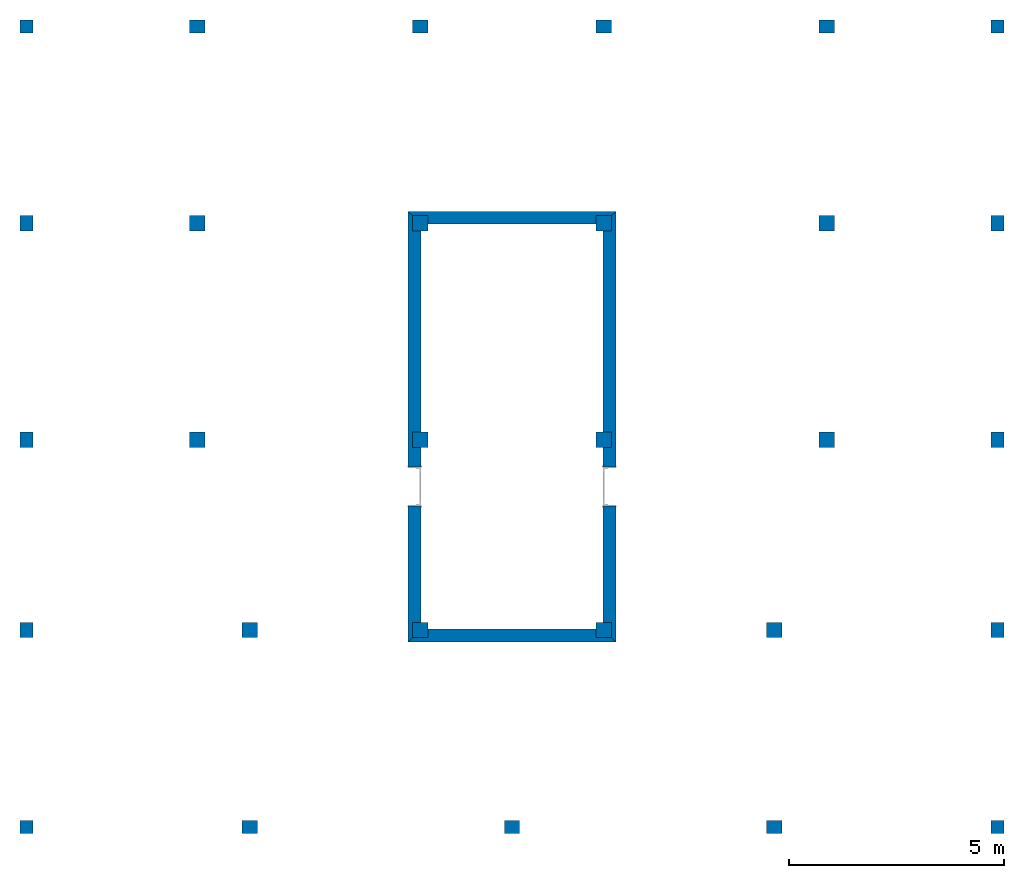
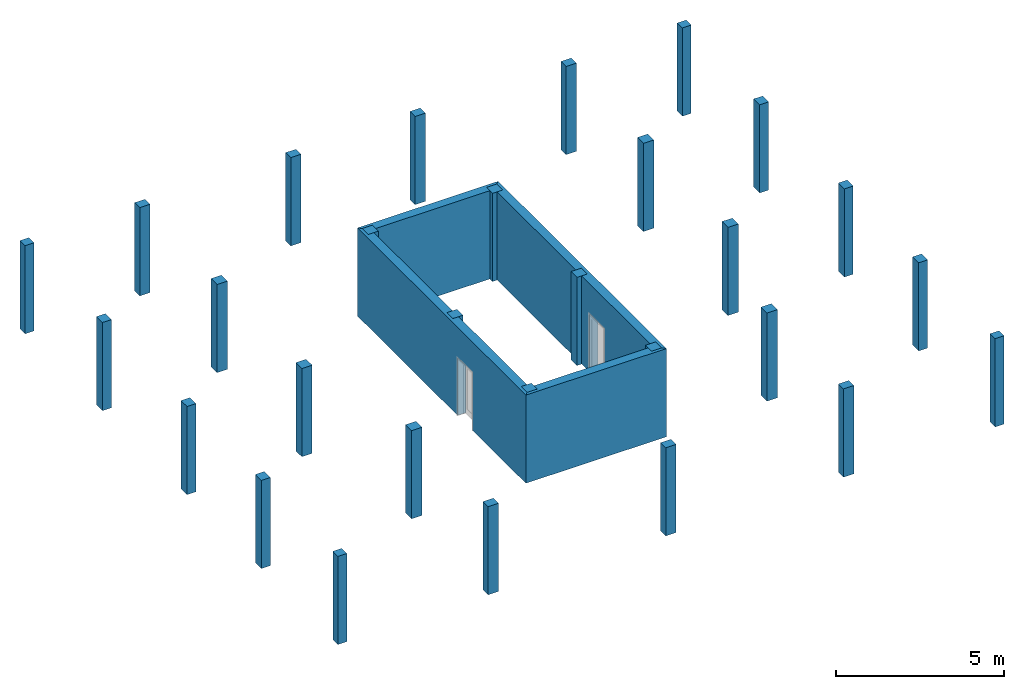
# One storey, part 1 of 2: 29 columns, 4 walls, 2 openings.
"""IFC2X3 building model written with IfcOpenShell, lengths in millimetres."""

from ifc_helpers import new_model, entity, si_unit, converted_unit, direction, frame, origin_with_axes, origin_2d_with_axis, place, context, subcontext, project, spatial, polyline, rectangle, outline, extrude, material, layer, layer_set, layer_usage, type_object, element, save


model = new_model("IFC2X3")

# Units and contexts
model_context = context("Model", 3, precision=1e-05, world=origin_with_axes(), true_north=direction((0.0, 1.0)))
body_context = subcontext(model_context, "Body", "Model", "MODEL_VIEW")
ifc_project = project(units=[si_unit("LENGTHUNIT", "METRE", prefix="MILLI"), si_unit("AREAUNIT", "SQUARE_METRE"), si_unit("VOLUMEUNIT", "CUBIC_METRE"), converted_unit("PLANEANGLEUNIT", "DEGREE", entity("IfcPlaneAngleMeasure", 0.017453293), si_unit("PLANEANGLEUNIT", "RADIAN"), dimensions=[0, 0, 0, 0, 0, 0, 0]), si_unit("SOLIDANGLEUNIT", "STERADIAN"), si_unit("MASSUNIT", "GRAM"), si_unit("TIMEUNIT", "SECOND"), si_unit("THERMODYNAMICTEMPERATUREUNIT", "DEGREE_CELSIUS"), si_unit("LUMINOUSINTENSITYUNIT", "LUMEN")], contexts=[model_context])

# Site, building, storey
site_placement = place(None, origin_with_axes())
site = spatial("IfcSite", under=ifc_project, at=site_placement, Name="Sitio", CompositionType="ELEMENT")
building_placement = place(site_placement, origin_with_axes())
building = spatial("IfcBuilding", under=site, at=building_placement, Name="Ejemplo_StruBIM", CompositionType="ELEMENT")
storey_placement = place(building_placement, origin_with_axes())
storey = spatial("IfcBuildingStorey", under=building, at=storey_placement, Name="Low level", CompositionType="ELEMENT", Elevation=0.0)

# Columns
ifc_material_1 = material(Name="Hormigón armado")
column_type_1 = type_object("IfcColumnType", Name="12\"X12\"", PredefinedType="NOTDEFINED")
for number, where, z_axis, x_axis, name in (
    (1, (0.0, 0.0, 0.0), (0.0, 0.0, 1.0), (1.0, 0.0, 0.0), "P1"),
    (2, (0.0, 18592.8, 0.0), (0.0, 0.0, 1.0), (1.0, 0.0, 0.0), "P24"),
    (3, (22555.2, 0.0, 0.0), (0.0, 0.0, 1.0), (1.0, 0.0, 0.0), "P5"),
    (4, (22555.2, 18592.8, 0.0), (0.0, 0.0, 1.0), (1.0, 0.0, 0.0), "P29"),
):
    element("IfcColumn", number, at=place(storey_placement, frame(where, z_axis=z_axis, x_axis=x_axis)), inside=storey, type_object=column_type_1, material=ifc_material_1, Name=name, ObjectType="12\"X12\"", context=body_context, shape_type="SweptSolid", body=[
        extrude(rectangle(XDim=304.8, YDim=304.8, at=origin_2d_with_axis()), origin_with_axes(), (0.0, 0.0, 1.0), 3200.4),
    ])
column_type_2 = type_object("IfcColumnType", Name="12\"X14\"", PredefinedType="NOTDEFINED")
for number, where, z_axis, x_axis, name in (
    (5, (0.0, 4572.0, 0.0), (0.0, 0.0, 1.0), (1.0, 0.0, 0.0), "P6"),
    (6, (0.0, 8991.6, 0.0), (0.0, 0.0, 1.0), (1.0, 0.0, 0.0), "P12"),
    (7, (0.0, 14020.8, 0.0), (0.0, 0.0, 1.0), (1.0, 0.0, 0.0), "P18"),
    (8, (22555.2, 4572.0, 0.0), (0.0, 0.0, 1.0), (1.0, 0.0, 0.0), "P11"),
    (9, (22555.2, 8991.6, 0.0), (0.0, 0.0, 1.0), (1.0, 0.0, 0.0), "P17"),
    (10, (22555.2, 14020.8, 0.0), (0.0, 0.0, 1.0), (1.0, 0.0, 0.0), "P23"),
):
    element("IfcColumn", number, at=place(storey_placement, frame(where, z_axis=z_axis, x_axis=x_axis)), inside=storey, type_object=column_type_2, material=ifc_material_1, Name=name, ObjectType="12\"X14\"", context=body_context, shape_type="SweptSolid", body=[
        extrude(rectangle(XDim=304.8, YDim=355.6, at=origin_2d_with_axis()), origin_with_axes(), (0.0, 0.0, 1.0), 3200.4),
    ])
column_type_3 = type_object("IfcColumnType", Name="14\"X12\"", PredefinedType="NOTDEFINED")
for number, where, z_axis, x_axis, name in (
    (11, (5181.6, 0.0, 0.0), (0.0, 0.0, 1.0), (1.0, 0.0, 0.0), "P2"),
    (12, (11277.6, 0.0, 0.0), (0.0, 0.0, 1.0), (1.0, 0.0, 0.0), "P3"),
    (13, (9144.0, 18592.8, 0.0), (0.0, 0.0, 1.0), (1.0, 0.0, 0.0), "P26"),
    (14, (3962.4, 18592.8, 0.0), (0.0, 0.0, 1.0), (1.0, 0.0, 0.0), "P25"),
    (15, (17373.6, 0.0, 0.0), (0.0, 0.0, 1.0), (1.0, 0.0, 0.0), "P4"),
    (16, (13411.2, 18592.8, 0.0), (0.0, 0.0, 1.0), (1.0, 0.0, 0.0), "P27"),
    (17, (18592.8, 18592.8, 0.0), (0.0, 0.0, 1.0), (1.0, 0.0, 0.0), "P28"),
):
    element("IfcColumn", number, at=place(storey_placement, frame(where, z_axis=z_axis, x_axis=x_axis)), inside=storey, type_object=column_type_3, material=ifc_material_1, Name=name, ObjectType="14\"X12\"", context=body_context, shape_type="SweptSolid", body=[
        extrude(rectangle(XDim=355.6, YDim=304.8, at=origin_2d_with_axis()), origin_with_axes(), (0.0, 0.0, 1.0), 3200.4),
    ])
column_type_4 = type_object("IfcColumnType", Name="14\"X14\"", PredefinedType="NOTDEFINED")
for number, where, z_axis, x_axis, name in (
    (18, (5181.6, 4572.0, 0.0), (0.0, 0.0, 1.0), (1.0, 0.0, 0.0), "P7"),
    (19, (3962.4, 8991.6, 0.0), (0.0, 0.0, 1.0), (1.0, 0.0, 0.0), "P13"),
    (20, (3962.4, 14020.8, 0.0), (0.0, 0.0, 1.0), (1.0, 0.0, 0.0), "P19"),
    (21, (9144.0, 14020.8, 0.0), (0.0, 0.0, 1.0), (1.0, 0.0, 0.0), "P20"),
    (22, (9144.0, 8991.6, 0.0), (0.0, 0.0, 1.0), (1.0, 0.0, 0.0), "P14"),
    (23, (9144.0, 4572.0, 0.0), (0.0, 0.0, 1.0), (1.0, 0.0, 0.0), "P8"),
    (24, (17373.6, 4572.0, 0.0), (0.0, 0.0, 1.0), (1.0, 0.0, 0.0), "P10"),
    (25, (18592.8, 8991.6, 0.0), (0.0, 0.0, 1.0), (1.0, 0.0, 0.0), "P16"),
    (26, (18592.8, 14020.8, 0.0), (0.0, 0.0, 1.0), (1.0, 0.0, 0.0), "P22"),
    (27, (13411.2, 14020.8, 0.0), (0.0, 0.0, 1.0), (1.0, 0.0, 0.0), "P21"),
    (28, (13411.2, 8991.6, 0.0), (0.0, 0.0, 1.0), (1.0, 0.0, 0.0), "P15"),
    (29, (13411.2, 4572.0, 0.0), (0.0, 0.0, 1.0), (1.0, 0.0, 0.0), "P9"),
):
    element("IfcColumn", number, at=place(storey_placement, frame(where, z_axis=z_axis, x_axis=x_axis)), inside=storey, type_object=column_type_4, material=ifc_material_1, Name=name, ObjectType="14\"X14\"", context=body_context, shape_type="SweptSolid", body=[
        extrude(rectangle(XDim=355.6, YDim=355.6, at=origin_2d_with_axis()), origin_with_axes(), (0.0, 0.0, 1.0), 3200.4),
    ])

# Wall
ifc_material_2 = material(Name="Bloque mampostería")
ifc_layer = layer(ifc_material_2, 300.0, ventilated="UNKNOWN")
ifc_layer_set = layer_set([ifc_layer], Name="Bloque mampostería 300")
ifc_layer_usage_1 = layer_usage(ifc_layer_set, "AXIS2", "POSITIVE", 0.0)
wall_type = type_object("IfcWallType", Name="Bloque mampostería 11 3/4\"", PredefinedType="NOTDEFINED")
wall_1_placement = place(storey_placement, frame((8864.6, 4292.6, 0.0), z_axis=(0.0, 0.0, 1.0), x_axis=(1.0, 0.0, 0.0)))
element("IfcWallStandardCase", 30, at=wall_1_placement, inside=storey, type_object=wall_type, material=ifc_layer_usage_1, Name="Muro-001", context=body_context, shape_type="SweptSolid", body=[
    extrude(outline(polyline([(0.0, 0.0), (4826.0, 0.0), (4526.0, 300.0), (300.0, 300.0), (0.0, 0.0)])), origin_with_axes(), (0.0, 0.0, 1.0), 3200.4),
])

# Wall, opening
ifc_layer_usage_2 = layer_usage(ifc_layer_set, "AXIS2", "POSITIVE", 0.0)
wall_2_placement = place(storey_placement, frame((13690.6, 4292.6, 0.0), z_axis=(0.0, 0.0, 1.0), x_axis=(0.0, 1.0, 0.0)))
wall_2 = element("IfcWallStandardCase", 31, at=wall_2_placement, inside=storey, type_object=wall_type, material=ifc_layer_usage_2, Name="Muro-002", context=body_context, shape_type="SweptSolid", body=[
    extrude(outline(polyline([(0.0, 0.0), (10007.6, 0.0), (9707.6, 300.0), (300.0, 300.0), (0.0, 0.0)])), origin_with_axes(), (0.0, 0.0, 1.0), 3200.4),
])
opening_1_placement = place(wall_2_placement, frame((3614.0, 0.0, 0.0), z_axis=(0.0, 0.0, 1.0), x_axis=(1.0, 0.0, 0.0)))
element("IfcOpeningElement", 32, at=opening_1_placement, cuts=wall_2, Name="P01", context=body_context, shape_type="SweptSolid", body=[
    extrude(rectangle(XDim=900.0, YDim=2100.0, at=origin_2d_with_axis()), frame((0.0, 0.0, 1050.0), z_axis=(0.0, 1.0, 0.0), x_axis=(1.0, 0.0, 0.0)), (0.0, 0.0, 1.0), 300.0),
    extrude(rectangle(XDim=974.0, YDim=2137.0, at=origin_2d_with_axis()), frame((0.0, 0.0, 1068.5), z_axis=(0.0, 1.0, 0.0), x_axis=(1.0, 0.0, 0.0)), (0.0, 0.0, -1.0), 300.0),
    extrude(rectangle(XDim=974.0, YDim=2137.0, at=origin_2d_with_axis()), frame((0.0, 300.0, 1068.5), z_axis=(0.0, -1.0, 0.0), x_axis=(1.0, 0.0, 0.0)), (0.0, 0.0, -1.0), 300.0),
])

# Wall
ifc_layer_usage_3 = layer_usage(ifc_layer_set, "AXIS2", "POSITIVE", 0.0)
wall_3_placement = place(storey_placement, frame((13690.6, 14300.2, 0.0), z_axis=(0.0, 0.0, 1.0), x_axis=(-1.0, 0.0, 0.0)))
element("IfcWallStandardCase", 33, at=wall_3_placement, inside=storey, type_object=wall_type, material=ifc_layer_usage_3, Name="Muro-003", context=body_context, shape_type="SweptSolid", body=[
    extrude(outline(polyline([(0.0, 0.0), (4826.0, 0.0), (4526.0, 300.0), (300.0, 300.0), (0.0, 0.0)])), origin_with_axes(), (0.0, 0.0, 1.0), 3200.4),
])

# Wall, opening
ifc_layer_usage_4 = layer_usage(ifc_layer_set, "AXIS2", "POSITIVE", 0.0)
wall_4_placement = place(storey_placement, frame((8864.6, 14300.2, 0.0), z_axis=(0.0, 0.0, 1.0), x_axis=(0.0, -1.0, 0.0)))
wall_4 = element("IfcWallStandardCase", 34, at=wall_4_placement, inside=storey, type_object=wall_type, material=ifc_layer_usage_4, Name="Muro-004", context=body_context, shape_type="SweptSolid", body=[
    extrude(outline(polyline([(0.0, 0.0), (10007.6, 0.0), (9707.6, 300.0), (300.0, 300.0), (0.0, 0.0)])), origin_with_axes(), (0.0, 0.0, 1.0), 3200.4),
])
opening_2_placement = place(wall_4_placement, frame((6393.6, 0.0, 0.0), z_axis=(0.0, 0.0, 1.0), x_axis=(1.0, 0.0, 0.0)))
element("IfcOpeningElement", 35, at=opening_2_placement, cuts=wall_4, Name="P01", context=body_context, shape_type="SweptSolid", body=[
    extrude(rectangle(XDim=900.0, YDim=2100.0, at=origin_2d_with_axis()), frame((0.0, 0.0, 1050.0), z_axis=(0.0, -1.0, 0.0), x_axis=(1.0, 0.0, 0.0)), (0.0, 0.0, -1.0), 300.0),
    extrude(rectangle(XDim=974.0, YDim=2137.0, at=origin_2d_with_axis()), frame((0.0, 0.0, 1068.5), z_axis=(0.0, -1.0, 0.0), x_axis=(1.0, 0.0, 0.0)), (0.0, 0.0, 1.0), 300.0),
    extrude(rectangle(XDim=974.0, YDim=2137.0, at=origin_2d_with_axis()), frame((0.0, 300.0, 1068.5), z_axis=(0.0, 1.0, 0.0), x_axis=(1.0, 0.0, 0.0)), (0.0, 0.0, 1.0), 300.0),
])

save(model, "model.ifc")
